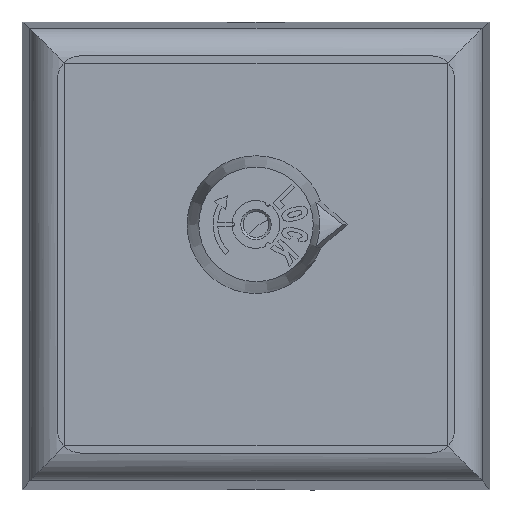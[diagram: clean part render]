
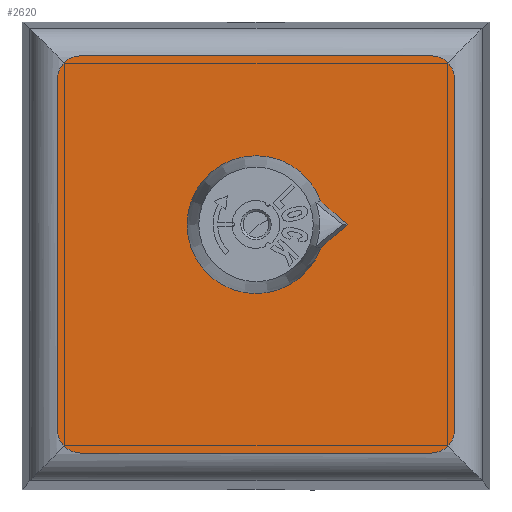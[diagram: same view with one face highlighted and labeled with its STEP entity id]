
A CAD part, top view. The second image highlights one B-rep face of the part: STEP entity #2620.
In plain terms, the highlighted planar face has unit normal (0, 0, 1).
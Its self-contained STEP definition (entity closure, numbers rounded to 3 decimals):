
#2425=CARTESIAN_POINT('',(5.552,4.548,68.339));
#2426=VERTEX_POINT('',#2425);
#2454=CARTESIAN_POINT('',(7.801,2.55,68.339));
#2455=VERTEX_POINT('',#2454);
#2462=CARTESIAN_POINT('',(5.552,4.548,68.339));
#2463=DIRECTION('',(0.748,-0.664,0.));
#2464=VECTOR('',#2463,3.009);
#2465=LINE('',#2462,#2464);
#2466=EDGE_CURVE('',#2426,#2455,#2465,.T.);
#2476=CARTESIAN_POINT('',(5.552,0.552,68.339));
#2477=VERTEX_POINT('',#2476);
#2493=CARTESIAN_POINT('',(7.801,2.55,68.339));
#2494=DIRECTION('',(-0.748,-0.664,0.));
#2495=VECTOR('',#2494,3.009);
#2496=LINE('',#2493,#2495);
#2497=EDGE_CURVE('',#2455,#2477,#2496,.T.);
#2524=CARTESIAN_POINT('',(0.,2.55,68.339));
#2525=DIRECTION('',(0.,0.,-1.0));
#2526=DIRECTION('',(1.0,0.,0.));
#2527=AXIS2_PLACEMENT_3D('',#2524,#2525,#2526);
#2528=CIRCLE('',#2527,5.9);
#2529=EDGE_CURVE('',#2477,#2426,#2528,.T.);
#2540=CARTESIAN_POINT('',(0.,0.,68.339));
#2541=DIRECTION('',(0.,0.,1.0));
#2542=DIRECTION('',(0.,-1.0,0.));
#2543=AXIS2_PLACEMENT_3D('',#2540,#2541,#2542);
#2544=PLANE('',#2543);
#2545=CARTESIAN_POINT('',(15.,17.,68.339));
#2546=VERTEX_POINT('',#2545);
#2547=CARTESIAN_POINT('',(17.,15.,68.339));
#2548=VERTEX_POINT('',#2547);
#2549=CARTESIAN_POINT('',(15.,15.,68.339));
#2550=DIRECTION('',(0.,0.,-1.0));
#2551=DIRECTION('',(0.707,0.707,0.));
#2552=AXIS2_PLACEMENT_3D('',#2549,#2550,#2551);
#2553=CIRCLE('',#2552,2.0);
#2554=EDGE_CURVE('',#2546,#2548,#2553,.T.);
#2555=ORIENTED_EDGE('',*,*,#2554,.F.);
#2556=CARTESIAN_POINT('',(-15.,17.,68.339));
#2557=VERTEX_POINT('',#2556);
#2558=CARTESIAN_POINT('',(-15.,17.,68.339));
#2559=DIRECTION('',(1.0,0.0,0.0));
#2560=VECTOR('',#2559,30.0);
#2561=LINE('',#2558,#2560);
#2562=EDGE_CURVE('',#2557,#2546,#2561,.T.);
#2563=ORIENTED_EDGE('',*,*,#2562,.F.);
#2564=CARTESIAN_POINT('',(-17.,15.,68.339));
#2565=VERTEX_POINT('',#2564);
#2566=CARTESIAN_POINT('',(-15.,15.,68.339));
#2567=DIRECTION('',(0.,0.,-1.0));
#2568=DIRECTION('',(-0.707,0.707,0.));
#2569=AXIS2_PLACEMENT_3D('',#2566,#2567,#2568);
#2570=CIRCLE('',#2569,2.0);
#2571=EDGE_CURVE('',#2565,#2557,#2570,.T.);
#2572=ORIENTED_EDGE('',*,*,#2571,.F.);
#2573=CARTESIAN_POINT('',(-17.,-15.,68.339));
#2574=VERTEX_POINT('',#2573);
#2575=CARTESIAN_POINT('',(-17.,-15.,68.339));
#2576=DIRECTION('',(0.0,1.0,0.));
#2577=VECTOR('',#2576,30.0);
#2578=LINE('',#2575,#2577);
#2579=EDGE_CURVE('',#2574,#2565,#2578,.T.);
#2580=ORIENTED_EDGE('',*,*,#2579,.F.);
#2581=CARTESIAN_POINT('',(-15.,-17.,68.339));
#2582=VERTEX_POINT('',#2581);
#2583=CARTESIAN_POINT('',(-15.,-15.,68.339));
#2584=DIRECTION('',(0.,0.,-1.0));
#2585=DIRECTION('',(-0.707,-0.707,0.));
#2586=AXIS2_PLACEMENT_3D('',#2583,#2584,#2585);
#2587=CIRCLE('',#2586,2.0);
#2588=EDGE_CURVE('',#2582,#2574,#2587,.T.);
#2589=ORIENTED_EDGE('',*,*,#2588,.F.);
#2590=CARTESIAN_POINT('',(15.,-17.,68.339));
#2591=VERTEX_POINT('',#2590);
#2592=CARTESIAN_POINT('',(15.,-17.,68.339));
#2593=DIRECTION('',(-1.0,0.0,0.0));
#2594=VECTOR('',#2593,30.0);
#2595=LINE('',#2592,#2594);
#2596=EDGE_CURVE('',#2591,#2582,#2595,.T.);
#2597=ORIENTED_EDGE('',*,*,#2596,.F.);
#2598=CARTESIAN_POINT('',(17.,-15.,68.339));
#2599=VERTEX_POINT('',#2598);
#2600=CARTESIAN_POINT('',(15.,-15.,68.339));
#2601=DIRECTION('',(0.,0.,-1.0));
#2602=DIRECTION('',(0.707,-0.707,0.));
#2603=AXIS2_PLACEMENT_3D('',#2600,#2601,#2602);
#2604=CIRCLE('',#2603,2.0);
#2605=EDGE_CURVE('',#2599,#2591,#2604,.T.);
#2606=ORIENTED_EDGE('',*,*,#2605,.F.);
#2607=CARTESIAN_POINT('',(17.,15.,68.339));
#2608=DIRECTION('',(0.0,-1.0,0.));
#2609=VECTOR('',#2608,30.0);
#2610=LINE('',#2607,#2609);
#2611=EDGE_CURVE('',#2548,#2599,#2610,.T.);
#2612=ORIENTED_EDGE('',*,*,#2611,.F.);
#2613=EDGE_LOOP('',(#2555,#2563,#2572,#2580,#2589,#2597,#2606,#2612));
#2614=FACE_OUTER_BOUND('',#2613,.T.);
#2615=ORIENTED_EDGE('',*,*,#2466,.T.);
#2616=ORIENTED_EDGE('',*,*,#2497,.T.);
#2617=ORIENTED_EDGE('',*,*,#2529,.T.);
#2618=EDGE_LOOP('',(#2615,#2616,#2617));
#2619=FACE_BOUND('',#2618,.T.);
#2620=ADVANCED_FACE('',(#2614,#2619),#2544,.T.);
